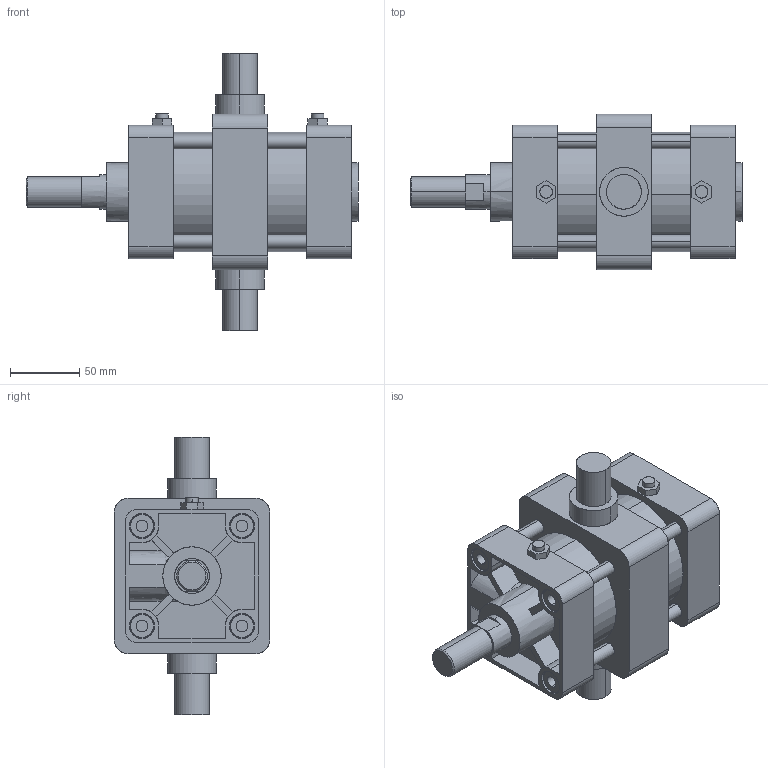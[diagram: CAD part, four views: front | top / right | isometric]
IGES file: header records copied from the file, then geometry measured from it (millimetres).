
Start section: SolidWorks IGES file using analytic representation for surfaces
Global section: file name: C:\Users\Toshiba\Desktop\KG2-80-50-T.IGS; native system: SolidWorks 2014; preprocessor: SolidWorks 2014; author: Toshiba; date: 160401.162054; units: millimetre
Bounding box: 239 x 112 x 200 mm (x, y, z)
Surface area: 224389 mm2 (no closed solid volume)
Topology: 0 solids, 0 shells, 341 faces, 5702 edges, 5698 vertices
Faces by surface type: bspline 175, revolution 166
